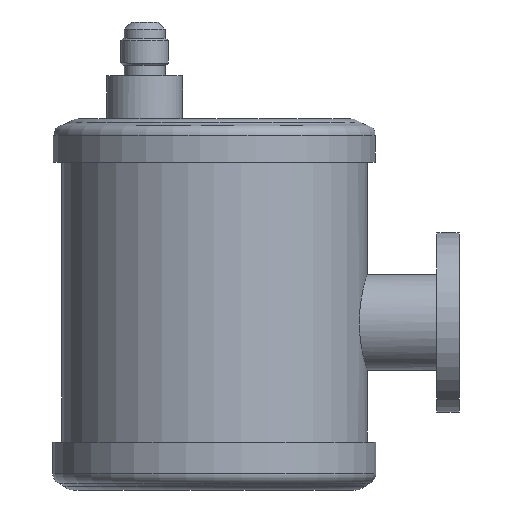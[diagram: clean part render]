
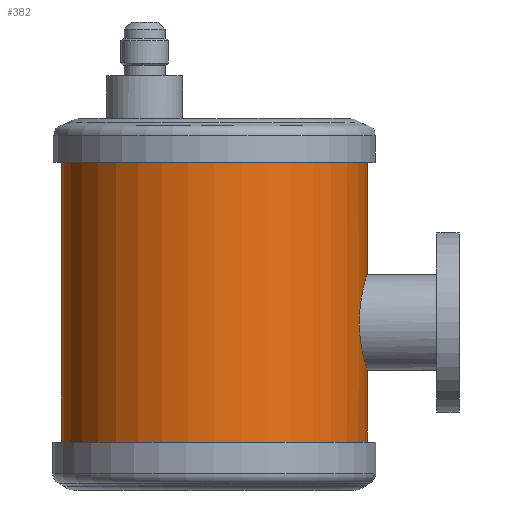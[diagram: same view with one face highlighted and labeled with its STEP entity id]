
A CAD part, left-side view. The second image highlights one B-rep face of the part: STEP entity #382.
In plain terms, the highlighted cylindrical face has radius 51 mm (diameter 102 mm), a full revolution.
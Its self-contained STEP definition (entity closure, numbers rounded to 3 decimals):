
#275=B_SPLINE_CURVE_WITH_KNOTS('',3,(#3663,#3664,#3665,#3666,#3667,#3668,
#3669,#3670,#3671,#3672,#3673,#3674,#3675,#3676,#3677,#3678,#3679,#3680,
#3681,#3682,#3683,#3684,#3685,#3686,#3687,#3688,#3689,#3690,#3691,#3692,
#3693,#3694,#3695,#3696),.UNSPECIFIED.,.T.,.F.,(2,2,2,2,2,2,2,2,2,2,2,2,
2,2,2,2,2,2,2),(-0.063,0.,0.062,0.125,0.188,0.25,
0.313,0.375,0.438,0.5,0.562,0.625,0.688,0.75,
0.813,0.875,0.938,1.,1.063),.UNSPECIFIED.);
#276=B_SPLINE_CURVE_WITH_KNOTS('',3,(#3720,#3721,#3722,#3723,#3724,#3725,
#3726,#3727,#3728,#3729,#3730,#3731,#3732,#3733,#3734,#3735,#3736,#3737,
#3738,#3739,#3740,#3741,#3742,#3743),.UNSPECIFIED.,.T.,.F.,(2,2,2,2,2,2,
2,2,2,2,2,2,2,2),(-0.125,0.,0.063,0.125,0.25,0.375,0.438,0.5,
0.563,0.625,0.75,0.875,1.,1.063),.UNSPECIFIED.);
#301=CYLINDRICAL_SURFACE('',#2539,51.);
#382=ADVANCED_FACE('',(#622,#623,#624,#625),#301,.T.);
#622=FACE_BOUND('',#980,.T.);
#623=FACE_BOUND('',#981,.T.);
#624=FACE_BOUND('',#982,.T.);
#625=FACE_BOUND('',#983,.T.);
#980=EDGE_LOOP('',(#1332));
#981=EDGE_LOOP('',(#1333));
#982=EDGE_LOOP('',(#1334));
#983=EDGE_LOOP('',(#1335));
#1332=ORIENTED_EDGE('',*,*,#2086,.F.);
#1333=ORIENTED_EDGE('',*,*,#2087,.F.);
#1334=ORIENTED_EDGE('',*,*,#2079,.T.);
#1335=ORIENTED_EDGE('',*,*,#2088,.F.);
#1852=VERTEX_POINT('',#3697);
#1859=VERTEX_POINT('',#3717);
#1860=VERTEX_POINT('',#3719);
#1861=VERTEX_POINT('',#3744);
#2079=EDGE_CURVE('',#1852,#1852,#275,.T.);
#2086=EDGE_CURVE('',#1859,#1859,#2350,.T.);
#2087=EDGE_CURVE('',#1860,#1860,#2351,.T.);
#2088=EDGE_CURVE('',#1861,#1861,#276,.T.);
#2350=CIRCLE('',#2537,51.);
#2351=CIRCLE('',#2538,51.);
#2537=AXIS2_PLACEMENT_3D('',#3716,#2908,#2909);
#2538=AXIS2_PLACEMENT_3D('',#3718,#2910,#2911);
#2539=AXIS2_PLACEMENT_3D('',#3745,#2912,#2913);
#2908=DIRECTION('',(0.,0.,-1.));
#2909=DIRECTION('',(1.,0.,0.));
#2910=DIRECTION('',(0.,0.,1.));
#2911=DIRECTION('',(-1.,0.,0.));
#2912=DIRECTION('',(0.,0.,1.));
#2913=DIRECTION('',(1.,0.,0.));
#3663=CARTESIAN_POINT('',(47.774,17.85,58.379));
#3664=CARTESIAN_POINT('',(47.774,17.85,53.621));
#3665=CARTESIAN_POINT('',(47.958,17.375,51.289));
#3666=CARTESIAN_POINT('',(48.572,15.577,46.976));
#3667=CARTESIAN_POINT('',(48.997,14.254,45.01));
#3668=CARTESIAN_POINT('',(49.831,10.989,41.745));
#3669=CARTESIAN_POINT('',(50.244,9.013,40.418));
#3670=CARTESIAN_POINT('',(50.827,4.723,38.63));
#3671=CARTESIAN_POINT('',(50.999,2.362,38.152));
#3672=CARTESIAN_POINT('',(51.001,-2.338,38.148));
#3673=CARTESIAN_POINT('',(50.832,-4.685,38.616));
#3674=CARTESIAN_POINT('',(50.242,-9.034,40.426));
#3675=CARTESIAN_POINT('',(49.831,-10.987,41.742));
#3676=CARTESIAN_POINT('',(48.993,-14.268,45.025));
#3677=CARTESIAN_POINT('',(48.57,-15.585,46.992));
#3678=CARTESIAN_POINT('',(47.959,-17.373,51.286));
#3679=CARTESIAN_POINT('',(47.775,-17.849,53.65));
#3680=CARTESIAN_POINT('',(47.774,-17.851,58.336));
#3681=CARTESIAN_POINT('',(47.958,-17.377,60.7));
#3682=CARTESIAN_POINT('',(48.57,-15.585,65.01));
#3683=CARTESIAN_POINT('',(48.991,-14.274,66.969));
#3684=CARTESIAN_POINT('',(49.834,-10.975,70.269));
#3685=CARTESIAN_POINT('',(50.242,-9.029,71.576));
#3686=CARTESIAN_POINT('',(50.831,-4.694,73.381));
#3687=CARTESIAN_POINT('',(51.,-2.351,73.85));
#3688=CARTESIAN_POINT('',(51.,2.354,73.85));
#3689=CARTESIAN_POINT('',(50.828,4.715,73.373));
#3690=CARTESIAN_POINT('',(50.244,9.015,71.581));
#3691=CARTESIAN_POINT('',(49.831,10.989,70.256));
#3692=CARTESIAN_POINT('',(48.995,14.261,66.982));
#3693=CARTESIAN_POINT('',(48.572,15.578,65.024));
#3694=CARTESIAN_POINT('',(47.958,17.377,60.703));
#3695=CARTESIAN_POINT('',(47.774,17.85,58.379));
#3696=CARTESIAN_POINT('',(47.774,17.85,53.621));
#3697=CARTESIAN_POINT('',(47.774,17.85,56.));
#3716=CARTESIAN_POINT('',(0.,0.,16.));
#3717=CARTESIAN_POINT('',(51.,0.,16.));
#3718=CARTESIAN_POINT('',(0.,0.,109.5));
#3719=CARTESIAN_POINT('',(-51.,0.,109.5));
#3720=CARTESIAN_POINT('',(4.257,-51.,72.));
#3721=CARTESIAN_POINT('',(-2.129,-51.,72.));
#3722=CARTESIAN_POINT('',(-4.216,-50.863,71.576));
#3723=CARTESIAN_POINT('',(-8.086,-50.393,69.965));
#3724=CARTESIAN_POINT('',(-9.852,-50.062,68.777));
#3725=CARTESIAN_POINT('',(-14.248,-49.062,64.378));
#3726=CARTESIAN_POINT('',(-15.997,-48.426,60.215));
#3727=CARTESIAN_POINT('',(-16.003,-48.424,51.807));
#3728=CARTESIAN_POINT('',(-14.263,-49.058,47.636));
#3729=CARTESIAN_POINT('',(-9.838,-50.065,43.211));
#3730=CARTESIAN_POINT('',(-8.074,-50.394,42.03));
#3731=CARTESIAN_POINT('',(-4.219,-50.862,40.426));
#3732=CARTESIAN_POINT('',(-2.104,-51.,40.001));
#3733=CARTESIAN_POINT('',(2.09,-51.,39.999));
#3734=CARTESIAN_POINT('',(4.208,-50.863,40.422));
#3735=CARTESIAN_POINT('',(8.068,-50.395,42.026));
#3736=CARTESIAN_POINT('',(9.833,-50.066,43.206));
#3737=CARTESIAN_POINT('',(14.265,-49.058,47.636));
#3738=CARTESIAN_POINT('',(15.999,-48.425,51.778));
#3739=CARTESIAN_POINT('',(16.001,-48.425,60.215));
#3740=CARTESIAN_POINT('',(14.251,-49.061,64.374));
#3741=CARTESIAN_POINT('',(8.386,-50.396,70.244));
#3742=CARTESIAN_POINT('',(4.257,-51.,72.));
#3743=CARTESIAN_POINT('',(-2.129,-51.,72.));
#3744=CARTESIAN_POINT('',(0.,-51.,72.));
#3745=CARTESIAN_POINT('',(0.,0.,5.5));
